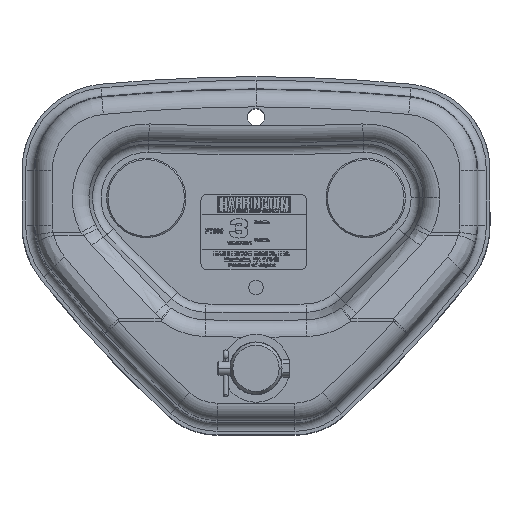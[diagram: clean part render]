
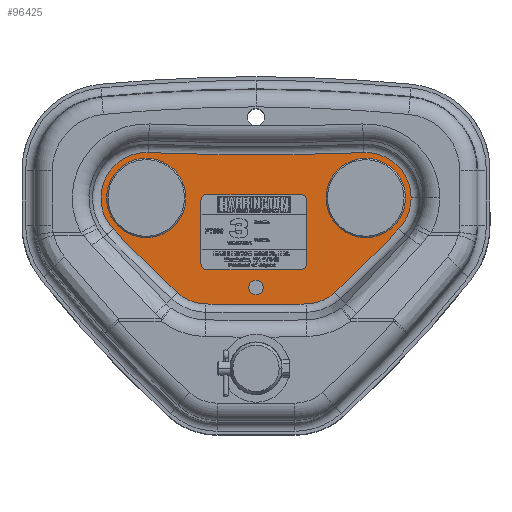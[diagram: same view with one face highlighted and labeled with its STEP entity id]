
A CAD part, top view. The second image highlights one B-rep face of the part: STEP entity #96425.
In plain terms, the highlighted planar face has unit normal (0, 0, 1).
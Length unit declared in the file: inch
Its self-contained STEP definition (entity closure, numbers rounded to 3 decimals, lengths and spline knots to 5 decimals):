
#305 = CIRCLE ( 'NONE', #65295, 0.90551 ) ;
#3975 = CIRCLE ( 'NONE', #72587, 1.23606 ) ;
#4686 = CIRCLE ( 'NONE', #35305, 0.90551 ) ;
#4717 = PLANE ( 'NONE',  #32311 ) ;
#5835 = CIRCLE ( 'NONE', #22025, 0.20276 ) ;
#5926 = VERTEX_POINT ( 'NONE', #93780 ) ;
#6261 = EDGE_LOOP ( 'NONE', ( #34267, #16767 ) ) ;
#6412 = CIRCLE ( 'NONE', #82196, 0.90551 ) ;
#8838 = DIRECTION ( 'NONE',  ( 1., 0., 0. ) ) ;
#9720 = CARTESIAN_POINT ( 'NONE',  ( 2.99213, 4.64567, 0.23622 ) ) ;
#9986 = DIRECTION ( 'NONE',  ( 0., 0., 1. ) ) ;
#9995 = AXIS2_PLACEMENT_3D ( 'NONE', #18995, #26381, #52910 ) ;
#10269 = VERTEX_POINT ( 'NONE', #88747 ) ;
#10763 = CIRCLE ( 'NONE', #109986, 71.0474 ) ;
#10768 = CARTESIAN_POINT ( 'NONE',  ( -2.99213, 4.64567, 0.23622 ) ) ;
#11227 = CARTESIAN_POINT ( 'NONE',  ( 2.14658, 2.07002, 0.23622 ) ) ;
#11425 = VERTEX_POINT ( 'NONE', #93097 ) ;
#11461 = CARTESIAN_POINT ( 'NONE',  ( -3.89575, 3.80227, 0.23622 ) ) ;
#12864 = EDGE_CURVE ( 'NONE', #108270, #95718, #24968, .T. ) ;
#13742 = FACE_BOUND ( 'NONE', #44260, .T. ) ;
#14219 = DIRECTION ( 'NONE',  ( 0., 0., 1. ) ) ;
#16091 = AXIS2_PLACEMENT_3D ( 'NONE', #26541, #110767, #25970 ) ;
#16767 = ORIENTED_EDGE ( 'NONE', *, *, #68671, .F. ) ;
#17548 = CARTESIAN_POINT ( 'NONE',  ( 0., 76.86718, 0.23622 ) ) ;
#18995 = CARTESIAN_POINT ( 'NONE',  ( 0., 2.20472, 0.23622 ) ) ;
#19372 = DIRECTION ( 'NONE',  ( 1., 0., 0. ) ) ;
#20563 = DIRECTION ( 'NONE',  ( 1., 0., 0. ) ) ;
#21306 = EDGE_CURVE ( 'NONE', #36569, #21794, #10763, .T. ) ;
#21794 = VERTEX_POINT ( 'NONE', #22976 ) ;
#22025 = AXIS2_PLACEMENT_3D ( 'NONE', #95852, #9986, #52387 ) ;
#22072 = ORIENTED_EDGE ( 'NONE', *, *, #49258, .T. ) ;
#22773 = DIRECTION ( 'NONE',  ( 0., 0., 1. ) ) ;
#22976 = CARTESIAN_POINT ( 'NONE',  ( -2.94096, 5.88067, 0.23622 ) ) ;
#23408 = DIRECTION ( 'NONE',  ( 0., 0., 1. ) ) ;
#24968 = CIRCLE ( 'NONE', #39406, 1.19669 ) ;
#25970 = DIRECTION ( 'NONE',  ( 1., 0., 0. ) ) ;
#26257 = ORIENTED_EDGE ( 'NONE', *, *, #96749, .T. ) ;
#26381 = DIRECTION ( 'NONE',  ( 0., 0., 1. ) ) ;
#26541 = CARTESIAN_POINT ( 'NONE',  ( 18.99684, 25.16922, 0.23622 ) ) ;
#26706 = CIRCLE ( 'NONE', #41148, 1.23606 ) ;
#27138 = DIRECTION ( 'NONE',  ( 0., 0., -1. ) ) ;
#28150 = ORIENTED_EDGE ( 'NONE', *, *, #105359, .T. ) ;
#28179 = ORIENTED_EDGE ( 'NONE', *, *, #31504, .T. ) ;
#30010 = ORIENTED_EDGE ( 'NONE', *, *, #21306, .T. ) ;
#30701 = DIRECTION ( 'NONE',  ( 1., 0., 0. ) ) ;
#31346 = DIRECTION ( 'NONE',  ( 1., 0., 0. ) ) ;
#31504 = EDGE_CURVE ( 'NONE', #95718, #10269, #82547, .T. ) ;
#32311 = AXIS2_PLACEMENT_3D ( 'NONE', #73631, #22773, #30701 ) ;
#33007 = CARTESIAN_POINT ( 'NONE',  ( 2.99213, 4.64567, 0.23622 ) ) ;
#34267 = ORIENTED_EDGE ( 'NONE', *, *, #52235, .F. ) ;
#34481 = CIRCLE ( 'NONE', #41667, 62.81087 ) ;
#35083 = ORIENTED_EDGE ( 'NONE', *, *, #73392, .T. ) ;
#35273 = EDGE_LOOP ( 'NONE', ( #67211, #28179, #22072, #28150, #30010, #35083, #26257, #65048, #77986 ) ) ;
#35305 = AXIS2_PLACEMENT_3D ( 'NONE', #10768, #53129, #82303 ) ;
#35901 = DIRECTION ( 'NONE',  ( 0., 0., 1. ) ) ;
#36158 = EDGE_CURVE ( 'NONE', #74309, #46707, #76754, .T. ) ;
#36386 = CARTESIAN_POINT ( 'NONE',  ( 2.94096, 5.88067, 0.23622 ) ) ;
#36569 = VERTEX_POINT ( 'NONE', #36386 ) ;
#36976 = EDGE_CURVE ( 'NONE', #44019, #11425, #4686, .T. ) ;
#38323 = AXIS2_PLACEMENT_3D ( 'NONE', #99898, #56374, #108384 ) ;
#39233 = AXIS2_PLACEMENT_3D ( 'NONE', #78824, #35901, #104820 ) ;
#39406 = AXIS2_PLACEMENT_3D ( 'NONE', #76692, #86303, #20563 ) ;
#39631 = ORIENTED_EDGE ( 'NONE', *, *, #36976, .F. ) ;
#39650 = EDGE_CURVE ( 'NONE', #86475, #5926, #79763, .T. ) ;
#41148 = AXIS2_PLACEMENT_3D ( 'NONE', #45370, #62888, #19372 ) ;
#41667 = AXIS2_PLACEMENT_3D ( 'NONE', #49106, #76168, #110683 ) ;
#44019 = VERTEX_POINT ( 'NONE', #70505 ) ;
#44260 = EDGE_LOOP ( 'NONE', ( #39631, #86375 ) ) ;
#45182 = CARTESIAN_POINT ( 'NONE',  ( 4.22819, 4.64567, 0.23622 ) ) ;
#45216 = DIRECTION ( 'NONE',  ( 1., 0., 0. ) ) ;
#45370 = CARTESIAN_POINT ( 'NONE',  ( 2.99213, 4.64567, 0.23622 ) ) ;
#46707 = VERTEX_POINT ( 'NONE', #60501 ) ;
#47660 = FACE_BOUND ( 'NONE', #91714, .T. ) ;
#48118 = CIRCLE ( 'NONE', #102316, 1.23606 ) ;
#49106 = CARTESIAN_POINT ( 'NONE',  ( 0., 64.55239, 0.23622 ) ) ;
#49258 = EDGE_CURVE ( 'NONE', #10269, #89573, #3975, .T. ) ;
#49317 = FACE_BOUND ( 'NONE', #6261, .T. ) ;
#49413 = VERTEX_POINT ( 'NONE', #79071 ) ;
#50106 = CARTESIAN_POINT ( 'NONE',  ( 2.99213, 4.64567, 0.23622 ) ) ;
#51119 = EDGE_CURVE ( 'NONE', #5926, #108270, #34481, .T. ) ;
#52235 = EDGE_CURVE ( 'NONE', #49413, #95554, #305, .T. ) ;
#52387 = DIRECTION ( 'NONE',  ( 1., 0., 0. ) ) ;
#52910 = DIRECTION ( 'NONE',  ( 1., 0., 0. ) ) ;
#53129 = DIRECTION ( 'NONE',  ( 0., 0., 1. ) ) ;
#56374 = DIRECTION ( 'NONE',  ( 0., 0., 1. ) ) ;
#57704 = DIRECTION ( 'NONE',  ( 1., 0., 0. ) ) ;
#60501 = CARTESIAN_POINT ( 'NONE',  ( 0.20276, 2.20472, 0.23622 ) ) ;
#61157 = ORIENTED_EDGE ( 'NONE', *, *, #36158, .F. ) ;
#62487 = DIRECTION ( 'NONE',  ( 0., 0., 1. ) ) ;
#62888 = DIRECTION ( 'NONE',  ( 0., 0., 1. ) ) ;
#64720 = ORIENTED_EDGE ( 'NONE', *, *, #85326, .F. ) ;
#65048 = ORIENTED_EDGE ( 'NONE', *, *, #39650, .T. ) ;
#65295 = AXIS2_PLACEMENT_3D ( 'NONE', #50106, #62487, #8838 ) ;
#66917 = CIRCLE ( 'NONE', #101208, 0.90551 ) ;
#67211 = ORIENTED_EDGE ( 'NONE', *, *, #12864, .T. ) ;
#67797 = VERTEX_POINT ( 'NONE', #11461 ) ;
#68671 = EDGE_CURVE ( 'NONE', #95554, #49413, #6412, .T. ) ;
#70183 = DIRECTION ( 'NONE',  ( 1., 0., 0. ) ) ;
#70505 = CARTESIAN_POINT ( 'NONE',  ( -2.08661, 4.64567, 0.23622 ) ) ;
#72587 = AXIS2_PLACEMENT_3D ( 'NONE', #9720, #78642, #70183 ) ;
#73392 = EDGE_CURVE ( 'NONE', #21794, #67797, #48118, .T. ) ;
#73631 = CARTESIAN_POINT ( 'NONE',  ( 0., 0., 0.23622 ) ) ;
#74309 = VERTEX_POINT ( 'NONE', #104132 ) ;
#75378 = DIRECTION ( 'NONE',  ( 1., 0., 0. ) ) ;
#76168 = DIRECTION ( 'NONE',  ( 0., 0., 1. ) ) ;
#76692 = CARTESIAN_POINT ( 'NONE',  ( 1.33858, 2.95276, 0.23622 ) ) ;
#76754 = CIRCLE ( 'NONE', #9995, 0.20276 ) ;
#77986 = ORIENTED_EDGE ( 'NONE', *, *, #51119, .T. ) ;
#78642 = DIRECTION ( 'NONE',  ( 0., 0., 1. ) ) ;
#78753 = CARTESIAN_POINT ( 'NONE',  ( 2.08661, 4.64567, 0.23622 ) ) ;
#78824 = CARTESIAN_POINT ( 'NONE',  ( -18.99684, 25.16922, 0.23622 ) ) ;
#78988 = CARTESIAN_POINT ( 'NONE',  ( 1.36458, 1.75634, 0.23622 ) ) ;
#79071 = CARTESIAN_POINT ( 'NONE',  ( 3.89764, 4.64567, 0.23622 ) ) ;
#79763 = CIRCLE ( 'NONE', #38323, 1.19669 ) ;
#81637 = DIRECTION ( 'NONE',  ( 0., 0., 1. ) ) ;
#82086 = FACE_OUTER_BOUND ( 'NONE', #35273, .T. ) ;
#82196 = AXIS2_PLACEMENT_3D ( 'NONE', #33007, #23408, #75378 ) ;
#82303 = DIRECTION ( 'NONE',  ( 1., 0., 0. ) ) ;
#82547 = CIRCLE ( 'NONE', #39233, 31.3148 ) ;
#85326 = EDGE_CURVE ( 'NONE', #46707, #74309, #5835, .T. ) ;
#86303 = DIRECTION ( 'NONE',  ( 0., 0., 1. ) ) ;
#86375 = ORIENTED_EDGE ( 'NONE', *, *, #109625, .F. ) ;
#86475 = VERTEX_POINT ( 'NONE', #110439 ) ;
#88747 = CARTESIAN_POINT ( 'NONE',  ( 3.89575, 3.80227, 0.23622 ) ) ;
#89573 = VERTEX_POINT ( 'NONE', #45182 ) ;
#90057 = CIRCLE ( 'NONE', #16091, 31.3148 ) ;
#91627 = CARTESIAN_POINT ( 'NONE',  ( -2.99213, 4.64567, 0.23622 ) ) ;
#91714 = EDGE_LOOP ( 'NONE', ( #64720, #61157 ) ) ;
#93097 = CARTESIAN_POINT ( 'NONE',  ( -3.89764, 4.64567, 0.23622 ) ) ;
#93780 = CARTESIAN_POINT ( 'NONE',  ( -1.36458, 1.75634, 0.23622 ) ) ;
#95554 = VERTEX_POINT ( 'NONE', #78753 ) ;
#95718 = VERTEX_POINT ( 'NONE', #11227 ) ;
#95852 = CARTESIAN_POINT ( 'NONE',  ( 0., 2.20472, 0.23622 ) ) ;
#96425 = ADVANCED_FACE ( 'NONE', ( #47660, #49317, #13742, #82086 ), #4717, .T. ) ;
#96749 = EDGE_CURVE ( 'NONE', #67797, #86475, #90057, .T. ) ;
#99898 = CARTESIAN_POINT ( 'NONE',  ( -1.33858, 2.95276, 0.23622 ) ) ;
#101208 = AXIS2_PLACEMENT_3D ( 'NONE', #108782, #81637, #31346 ) ;
#102316 = AXIS2_PLACEMENT_3D ( 'NONE', #91627, #14219, #57704 ) ;
#104132 = CARTESIAN_POINT ( 'NONE',  ( -0.20276, 2.20472, 0.23622 ) ) ;
#104820 = DIRECTION ( 'NONE',  ( 1., 0., 0. ) ) ;
#105359 = EDGE_CURVE ( 'NONE', #89573, #36569, #26706, .T. ) ;
#108270 = VERTEX_POINT ( 'NONE', #78988 ) ;
#108384 = DIRECTION ( 'NONE',  ( 1., 0., 0. ) ) ;
#108782 = CARTESIAN_POINT ( 'NONE',  ( -2.99213, 4.64567, 0.23622 ) ) ;
#109625 = EDGE_CURVE ( 'NONE', #11425, #44019, #66917, .T. ) ;
#109986 = AXIS2_PLACEMENT_3D ( 'NONE', #17548, #27138, #45216 ) ;
#110439 = CARTESIAN_POINT ( 'NONE',  ( -2.14658, 2.07002, 0.23622 ) ) ;
#110683 = DIRECTION ( 'NONE',  ( 1., 0., 0. ) ) ;
#110767 = DIRECTION ( 'NONE',  ( 0., 0., 1. ) ) ;
